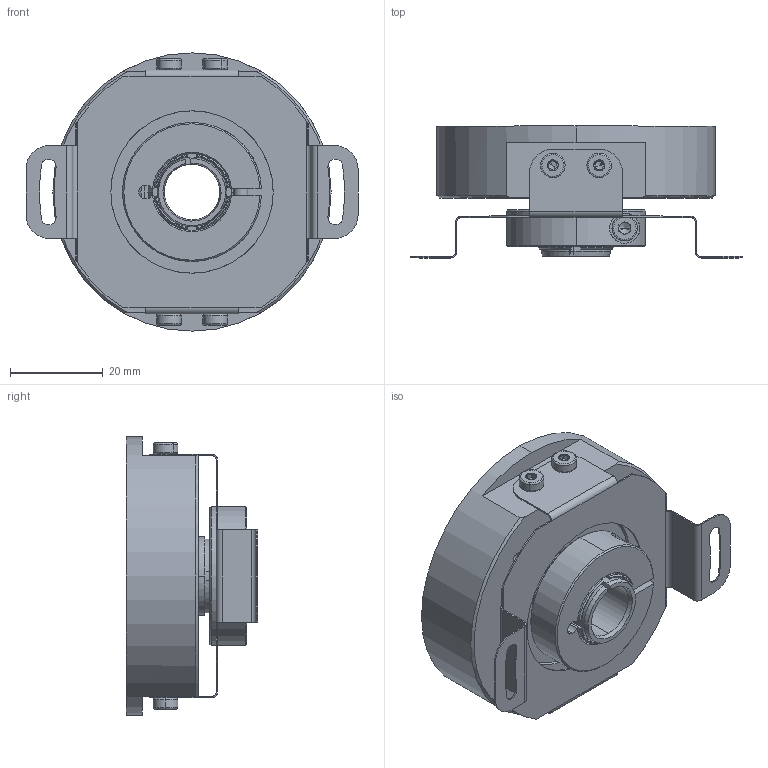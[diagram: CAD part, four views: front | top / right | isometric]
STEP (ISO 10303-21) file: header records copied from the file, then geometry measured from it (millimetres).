
FILE_DESCRIPTION (( 'STEP AP214' ), '1' );
FILE_NAME ('drawing-ucd-hcpv-q5b-n.STEP', '2017-05-15T09:42:48', ( '' ), ( '' ), 'SwSTEP 2.0', 'SolidWorks 2017', '' );
FILE_SCHEMA (( 'AUTOMOTIVE_DESIGN' ));
Length unit declared in the file: millimetre
Products named in the file (1): drawing-ucd-hcpv-q5b-n
Bounding box: 71.57 x 28.4 x 60 mm (x, y, z)
Volume: 42258.2 mm3; surface area: 30682.4 mm2
Topology: 24 solids, 24 shells, 1093 faces, 2603 edges, 1550 vertices
Faces by surface type: cone 366, cylinder 283, plane 264, bspline 136, torus 44
Entity records: 49997 total; most frequent: CARTESIAN_POINT 13104, DIRECTION 5176, ORIENTED_EDGE 5090, EDGE_CURVE 2545, AXIS2_PLACEMENT_3D 2025, VERTEX_POINT 1550, EDGE_LOOP 1183, VECTOR 1126
